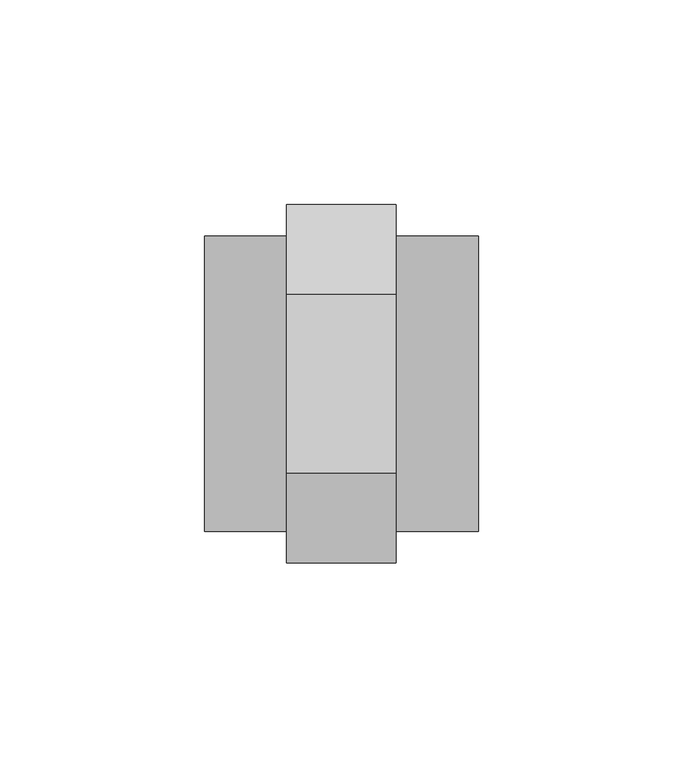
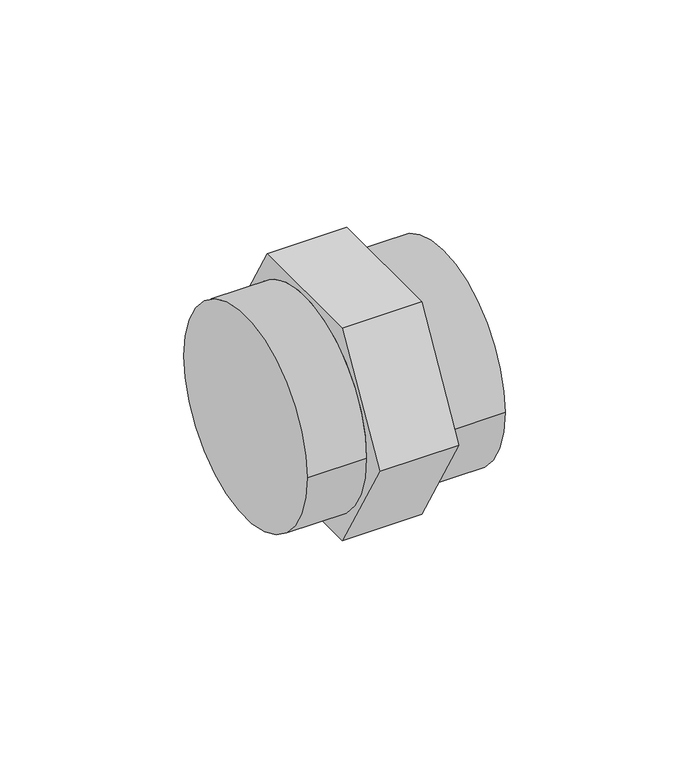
"""IFC4 building model written with IfcOpenShell, lengths in millimetres: pipe fitting geometry, 01101007 : Uniao F/F."""

from ifc_helpers import new_model, si_unit, frame, origin, place, context, project, spatial, circle_curve, source, transform, mapped, element, save
from ifc_brep_helpers import plane_surface, cylinder_surface, advanced_brep


def pipe_fitting_19621b4f(model_context):
    return source(origin(), model_context, "Body", "AdvancedBrep", [
        advanced_brep(
        [(13.4, -21.9393102, 38.0), (13.4, -43.8786205, 0.0), (13.4, -21.9393102, -38.0), (13.4, 21.9393102, -38.0), (13.4, 43.8786205, 0.0), (13.4, 21.9393102, 38.0), (13.4, -36.1, 0.0), (13.4, 36.1, 0.0), (-13.4, -21.9393102, 38.0), (-13.4, 21.9393102, 38.0), (-13.4, 43.8786205, 0.0), (-13.4, 21.9393102, -38.0), (-13.4, -21.9393102, -38.0), (-13.4, -43.8786205, 0.0), (-13.4, 36.1, 0.0), (-13.4, -36.1, 0.0), (-33.5, -36.1, 0.0), (-33.5, 36.1, 0.0), (33.5, -36.1, 0.0), (33.5, 36.1, 0.0)],
        [
            (0, 1),
            (1, 2),
            (2, 3),
            (3, 4),
            (4, 5),
            (5, 0),
            (6, 7, circle_curve(frame((13.4, 0.0, 0.0), z_axis=(-1.0, 0.0, 0.0), x_axis=(0.0, 1.0, 0.0)), 36.1)),
            (7, 6, circle_curve(frame((13.4, 0.0, 0.0), z_axis=(-1.0, 0.0, 0.0), x_axis=(0.0, 1.0, 0.0)), 36.1)),
            (8, 9),
            (9, 10),
            (10, 11),
            (11, 12),
            (12, 13),
            (13, 8),
            (14, 15, circle_curve(frame((-13.4, 0.0, 0.0), z_axis=(1.0, 0.0, 0.0), x_axis=(0.0, 1.0, 0.0)), 36.1)),
            (15, 14, circle_curve(frame((-13.4, 0.0, 0.0), z_axis=(1.0, 0.0, 0.0), x_axis=(0.0, 1.0, 0.0)), 36.1)),
            (0, 8),
            (13, 1),
            (12, 2),
            (11, 3),
            (10, 4),
            (9, 5),
            (16, 17, circle_curve(frame((-33.5, 0.0, 0.0), z_axis=(-1.0, 0.0, 0.0), x_axis=(0.0, 1.0, 0.0)), 36.1)),
            (17, 16, circle_curve(frame((-33.5, 0.0, 0.0), z_axis=(-1.0, 0.0, 0.0), x_axis=(0.0, 1.0, 0.0)), 36.1)),
            (18, 19, circle_curve(frame((33.5, 0.0, 0.0), z_axis=(1.0, 0.0, 0.0), x_axis=(0.0, 1.0, 0.0)), 36.1)),
            (19, 18, circle_curve(frame((33.5, 0.0, 0.0), z_axis=(1.0, 0.0, 0.0), x_axis=(0.0, 1.0, 0.0)), 36.1)),
            (16, 15),
            (14, 17),
            (19, 7),
            (6, 18),
        ],
        [
            plane_surface(frame((13.4, -21.9393102, 38.0), z_axis=(1.0000000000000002, 0.0, 0.0), x_axis=(0.0, -0.5000000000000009, -0.8660254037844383))),
            plane_surface(frame((-13.4, -21.9393102, 38.0), z_axis=(-1.0000000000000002, 0.0, 0.0), x_axis=(0.0, 0.5000000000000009, 0.8660254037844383))),
            plane_surface(frame((13.4, -21.9393102, 38.0), z_axis=(0.0, -0.8660254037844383, 0.5000000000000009), x_axis=(-1.0, 0.0, 0.0))),
            plane_surface(frame((13.4, -43.8786205, 0.0), z_axis=(0.0, -0.8660254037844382, -0.500000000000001), x_axis=(-1.0, 0.0, 0.0))),
            plane_surface(frame((13.4, -21.9393102, -38.0), z_axis=(0.0, 0.0, -1.0), x_axis=(-1.0, 0.0, 0.0))),
            plane_surface(frame((13.4, 21.9393102, -38.0), z_axis=(0.0, 0.8660254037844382, -0.5000000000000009), x_axis=(-1.0, 0.0, 0.0))),
            plane_surface(frame((13.4, 43.8786205, 0.0), z_axis=(0.0, 0.8660254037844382, 0.500000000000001), x_axis=(-1.0, 0.0, 0.0))),
            plane_surface(frame((13.4, 21.9393102, 38.0), z_axis=(0.0, 0.0, 1.0), x_axis=(-1.0, 0.0, 0.0))),
            plane_surface(frame((-33.5, 0.0, 0.0), z_axis=(-1.0, 0.0, 0.0), x_axis=(0.0, 0.0, 1.0))),
            plane_surface(frame((33.5, 0.0, 0.0), z_axis=(1.0, 0.0, 0.0), x_axis=(0.0, 0.0, 1.0))),
            cylinder_surface(frame((-33.5, 0.0, 0.0), z_axis=(-1.0, 0.0, 0.0), x_axis=(0.0, 1.0, 0.0)), 36.1),
        ],
        [
            (0, [[1, 2, 3, 4, 5, 6], [7, 8]]),
            (1, [[9, 10, 11, 12, 13, 14], [15, 16]]),
            (2, [[-1, 17, -14, 18]]),
            (3, [[-2, -18, -13, 19]]),
            (4, [[-3, -19, -12, 20]]),
            (5, [[-4, -20, -11, 21]]),
            (6, [[-5, -21, -10, 22]]),
            (7, [[-6, -22, -9, -17]]),
            (8, [[23, 24]]),
            (9, [[25, 26]]),
            (10, [[-23, 27, -15, 28]]),
            (10, [[-26, 29, -7, 30]]),
            (10, [[-24, -28, -16, -27]]),
            (10, [[-25, -30, -8, -29]]),
        ],
    ),
    ])


if __name__ == "__main__":
    model = new_model("IFC4")
    model_context = context("Model", 3, world=origin())
    ifc_project = project(units=[si_unit("LENGTHUNIT", "METRE", prefix="MILLI")], contexts=[model_context])
    site = spatial("IfcSite", under=ifc_project)
    building = spatial("IfcBuilding", under=site)
    placement = place(None, origin())
    pipe_fitting_shape = pipe_fitting_19621b4f(model_context)
    element("IfcPipeFitting", 1, ObjectType="01101007 : Uniao F/F", at=placement, inside=building, context=model_context, shape_type="MappedRepresentation", body=[
        mapped(pipe_fitting_shape, transform((0.0, 0.0, 0.0), x_axis=(1.0, 0.0, 0.0), y_axis=(0.0, 1.0, 0.0), z_axis=(0.0, 0.0, 1.0))),
    ])
    save(model, "model.ifc")
